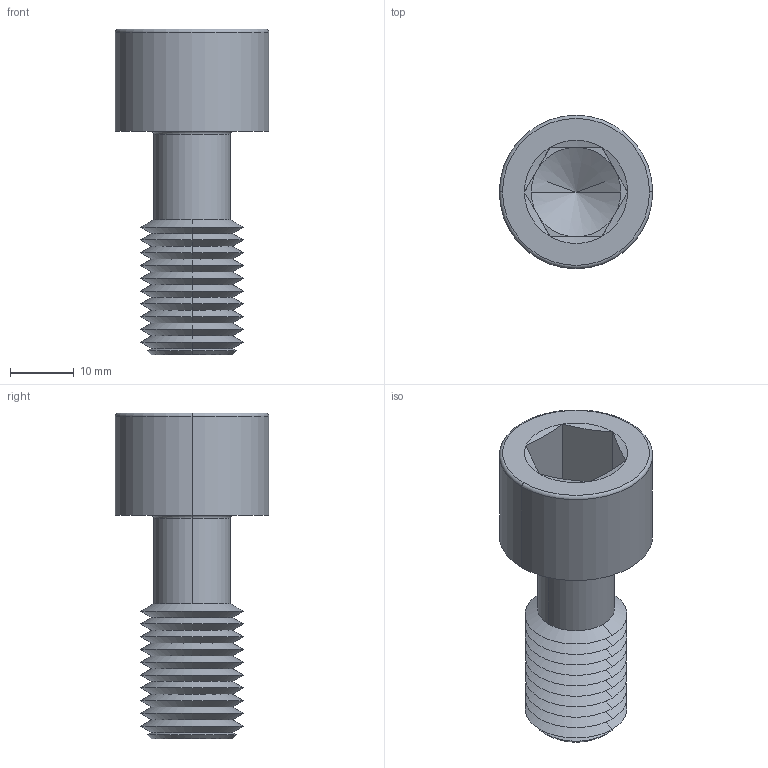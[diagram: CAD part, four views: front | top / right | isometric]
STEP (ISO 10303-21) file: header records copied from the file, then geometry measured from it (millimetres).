
FILE_DESCRIPTION (( 'STEP AP203' ), '1' );
FILE_NAME ('P0154.160-035-BL.step', '2024-06-17T11:38:00', ( '' ), ( '' ), 'SwSTEP 2.0', 'SolidWorks 2019', '' );
FILE_SCHEMA (( 'CONFIG_CONTROL_DESIGN' ));
Length unit declared in the file: millimetre
Products named in the file (1): P0154.160-035-BL
Bounding box: 24 x 24 x 51 mm (x, y, z)
Volume: 9582.6 mm3; surface area: 5186.9 mm2
Topology: 1 solids, 1 shells, 75 faces, 152 edges, 79 vertices
Faces by surface type: cone 52, plane 15, torus 4, cylinder 4
Entity records: 1991 total; most frequent: DIRECTION 372, CARTESIAN_POINT 335, ORIENTED_EDGE 300, AXIS2_PLACEMENT_3D 152, EDGE_CURVE 150, VERTEX_POINT 79, EDGE_LOOP 77, CIRCLE 76
